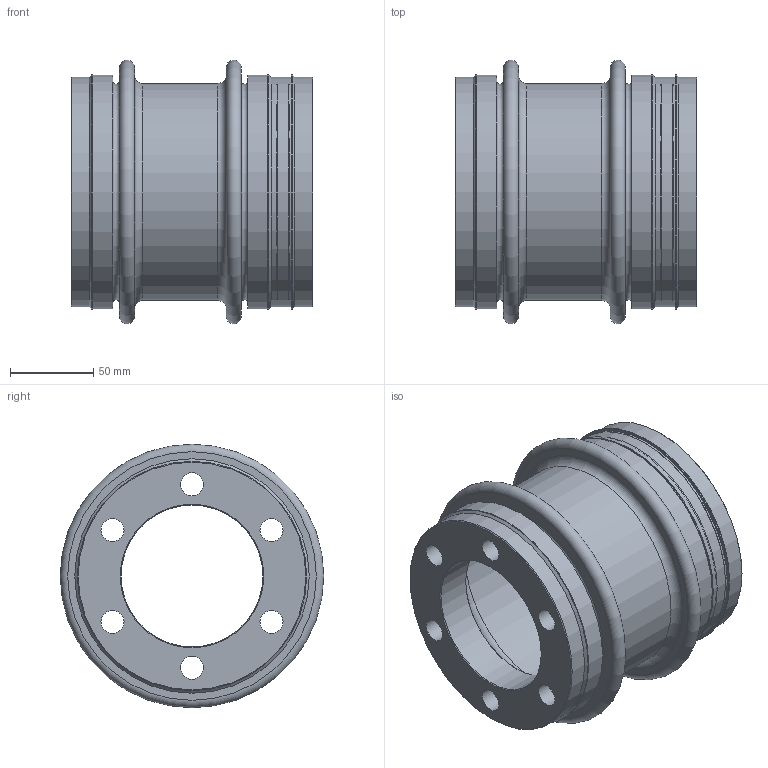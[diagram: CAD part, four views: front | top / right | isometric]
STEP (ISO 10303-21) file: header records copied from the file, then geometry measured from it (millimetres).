
FILE_DESCRIPTION( ( 'Unknown' ), '1' );
FILE_NAME( 'K:/Konstruktion/cad/KB7/KB7-1400.stp', 'Unknown', ( 'Unknown' ), ( 'Unknown' ), 'XStep 1.0', 'Unknown', ' ' );
FILE_SCHEMA( ( 'automotive_design' ) );
Length unit declared in the file: millimetre
Products named in the file (3): Assem1; B800-3000; FN800-3000
Bounding box: 144.91 x 157.98 x 157.98 mm (x, y, z)
Volume: 761940.8 mm3; surface area: 389864.5 mm2
Topology: 5 solids, 5 shells, 126 faces, 269 edges, 180 vertices
Faces by surface type: cylinder 46, plane 37, torus 28, cone 15
Full cylindrical faces by diameter (mm): 13.835 x18, 85 x3, 126 x4, 127 x2, 130 x2, 137 x4, 137.5 x6, 140 x4, 140.5 x3
Entity records: 1522 total; most frequent: DIRECTION 236, CARTESIAN_POINT 178, EDGE_LOOP 120, ORIENTED_EDGE 120, AXIS2_PLACEMENT_3D 118, FACE_OUTER_BOUND 86, EDGE_CURVE 60, VERTEX_POINT 60
